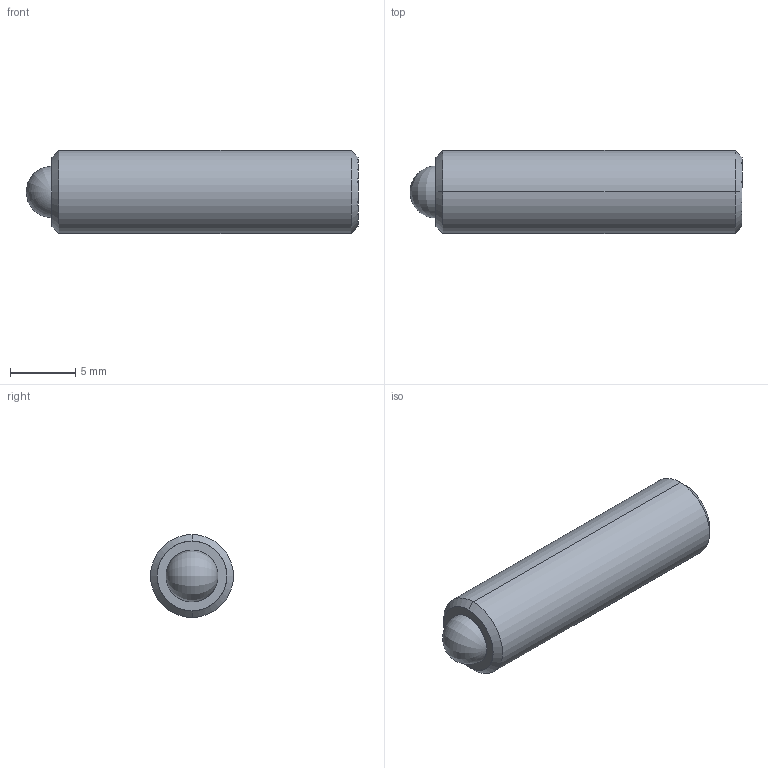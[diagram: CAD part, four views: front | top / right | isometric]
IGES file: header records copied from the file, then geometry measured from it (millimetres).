
Start section: SolidWorks IGES file using analytic representation for surfaces
Global section: file name: C:\Users\workpc\Desktop\KMA Solidworks\TS250-80-1000.IGS; native system: SolidWorks 2013; preprocessor: SolidWorks 2013; author: workpc; date: 130211.123125; units: inch
Bounding box: 25.4 x 6.35 x 6.35 mm (x, y, z)
Surface area: 611 mm2 (no closed solid volume)
Topology: 0 solids, 0 shells, 20 faces, 204 edges, 200 vertices
Faces by surface type: revolution 10, bspline 10
